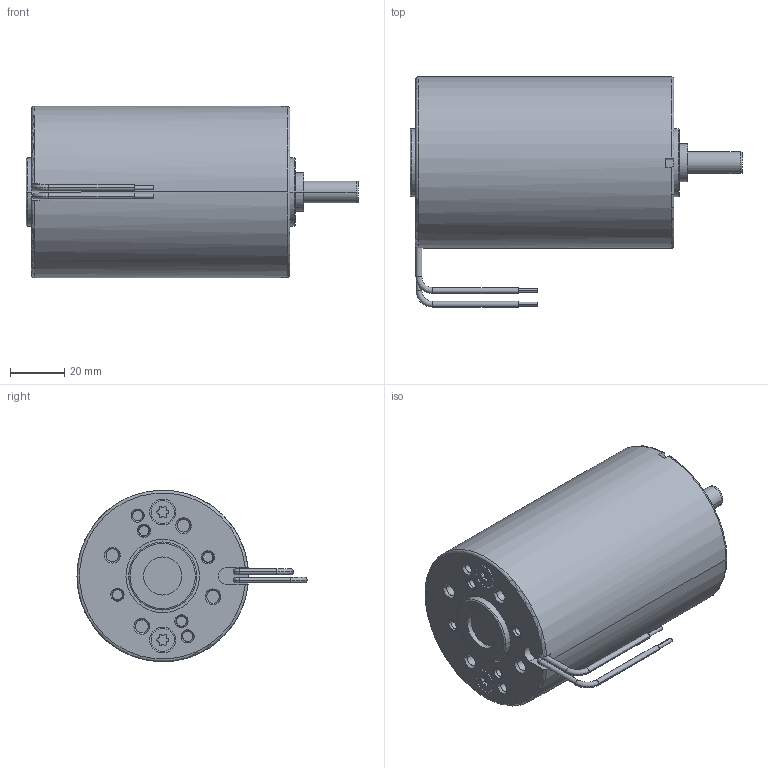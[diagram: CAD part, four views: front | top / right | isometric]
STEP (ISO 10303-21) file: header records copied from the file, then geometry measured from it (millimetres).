
FILE_DESCRIPTION((''),'2;1');
FILE_NAME('GR63X25_AS8X25_NS0','2005-06-20T',('Carsten.Lang'),(''),'PRO/ENGINEER BY PARAMETRIC TECHNOLOGY CORPORATION, 2003490','PRO/ENGINEER BY PARAMETRIC TECHNOLOGY CORPORATION, 2003490','');
FILE_SCHEMA(('AUTOMOTIVE_DESIGN_CC2 { 1 2 10303 214 -1 1 5 2 }'));
Length unit declared in the file: millimetre
Products named in the file (1): GR63X25_AS8X25_NS0
Bounding box: 122 x 84.55 x 62.99 mm (x, y, z)
Volume: 295843.3 mm3; surface area: 32389.3 mm2
Topology: 1 solids, 21 shells, 307 faces, 711 edges, 462 vertices
Faces by surface type: cylinder 161, plane 77, cone 54, torus 15
Entity records: 9363 total; most frequent: DIRECTION 1760, CARTESIAN_POINT 1635, ORIENTED_EDGE 1342, AXIS2_PLACEMENT_3D 761, EDGE_CURVE 711, VERTEX_POINT 462, CIRCLE 453, EDGE_LOOP 363
